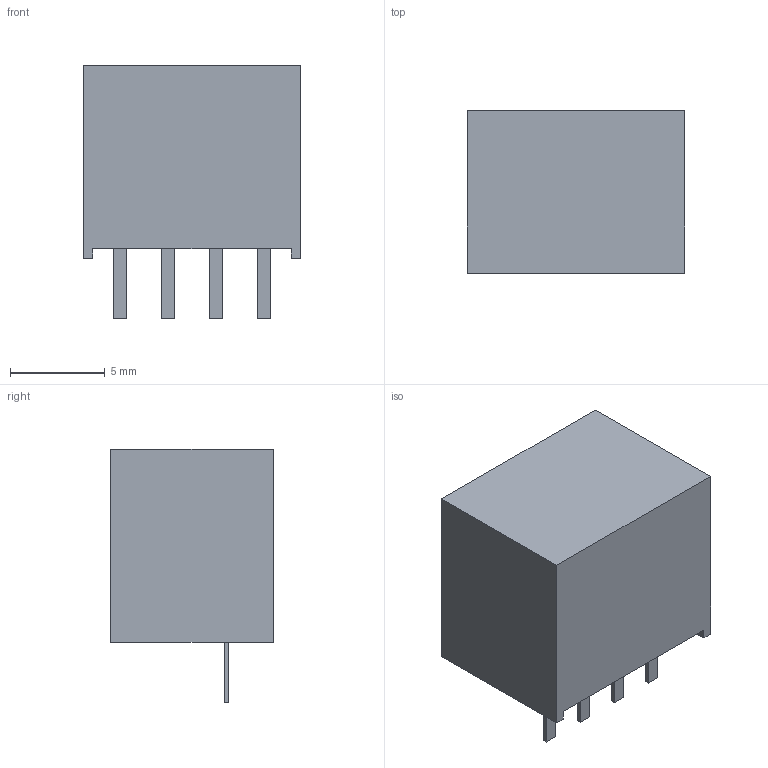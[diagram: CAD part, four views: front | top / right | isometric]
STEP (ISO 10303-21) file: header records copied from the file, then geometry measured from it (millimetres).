
FILE_DESCRIPTION(/* description */ (''),/* implementation_level */ '2;1');
FILE_NAME(/* name */ 'C:\Users\Calliope\Desktop\轉檔暫存用\MBSU03_5V&12V.stp',/* time_stamp */ '2024-02-23T16:07:33+08:00',/* author */ ('Calliope'),/* organization */ (''),/* preprocessor_version */ 'ST-DEVELOPER v16.1',/* originating_system */ 'Autodesk Inventor 2016',/* authorisation */ '');
FILE_SCHEMA (('AUTOMOTIVE_DESIGN { 1 0 10303 214 3 1 1 }'));
Length unit declared in the file: millimetre
Products named in the file (1): MBSU03_5V&12V
Bounding box: 11.5 x 8.6 x 13.4 mm (x, y, z)
Volume: 966.2 mm3; surface area: 634.1 mm2
Topology: 1 solids, 1 shells, 30 faces, 72 edges, 48 vertices
Faces by surface type: plane 30
Entity records: 924 total; most frequent: CARTESIAN_POINT 151, ORIENTED_EDGE 144, DIRECTION 134, LINE 72, VECTOR 72, EDGE_CURVE 72, VERTEX_POINT 48, EDGE_LOOP 34
